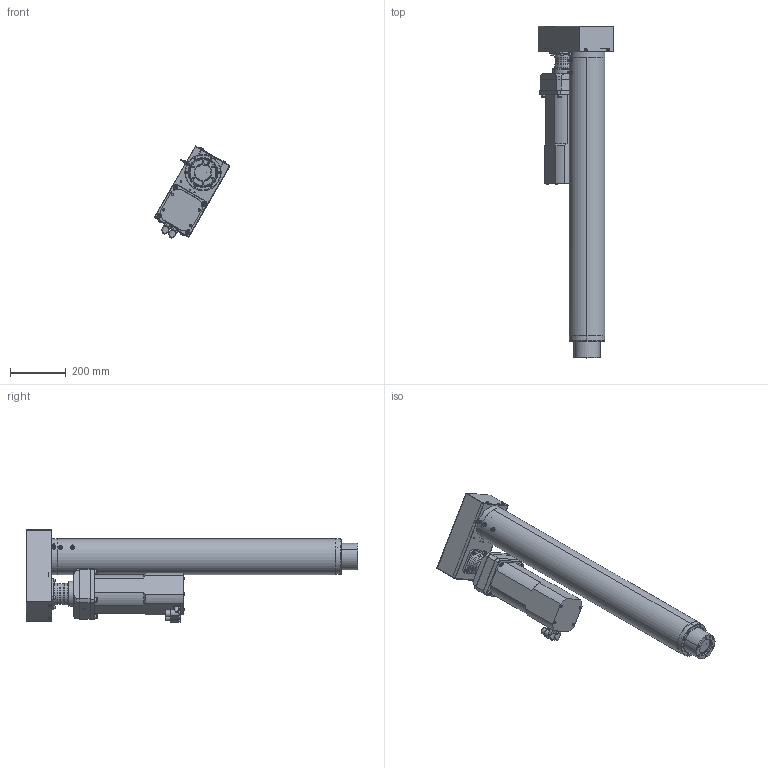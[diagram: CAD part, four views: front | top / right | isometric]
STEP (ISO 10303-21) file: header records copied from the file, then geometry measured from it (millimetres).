
FILE_DESCRIPTION (( 'STEP AP214' ), '1' );
FILE_NAME ('RLWPK030D-075-025HG0.STEP', '2023-04-05T14:20:15', ( '' ), ( '' ), 'SwSTEP 2.0', 'SolidWorks 2021', '' );
FILE_SCHEMA (( 'AUTOMOTIVE_DESIGN' ));
Length unit declared in the file: millimetre
Products named in the file (1): RLWPK030D-075-025HG0
Bounding box: 272.28 x 1192.5 x 331.26 mm (x, y, z)
Volume: 17048749.8 mm3; surface area: 1999269.7 mm2
Topology: 30 solids, 30 shells, 1171 faces, 2765 edges, 1661 vertices
Faces by surface type: cylinder 474, plane 419, cone 202, torus 68, bspline 6, sphere 2
Entity records: 47720 total; most frequent: CARTESIAN_POINT 7330, DIRECTION 6054, ORIENTED_EDGE 5282, EDGE_CURVE 2641, AXIS2_PLACEMENT_3D 2367, VERTEX_POINT 1661, EDGE_LOOP 1402, VECTOR 1320
